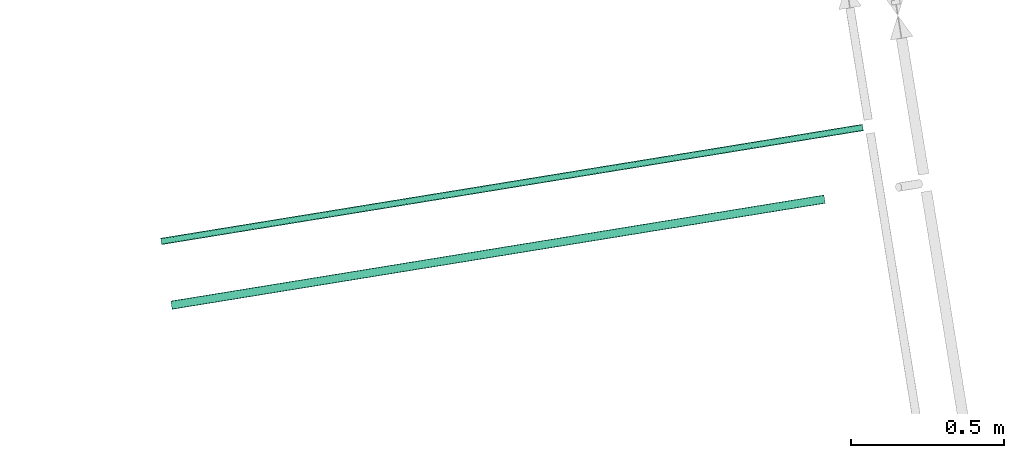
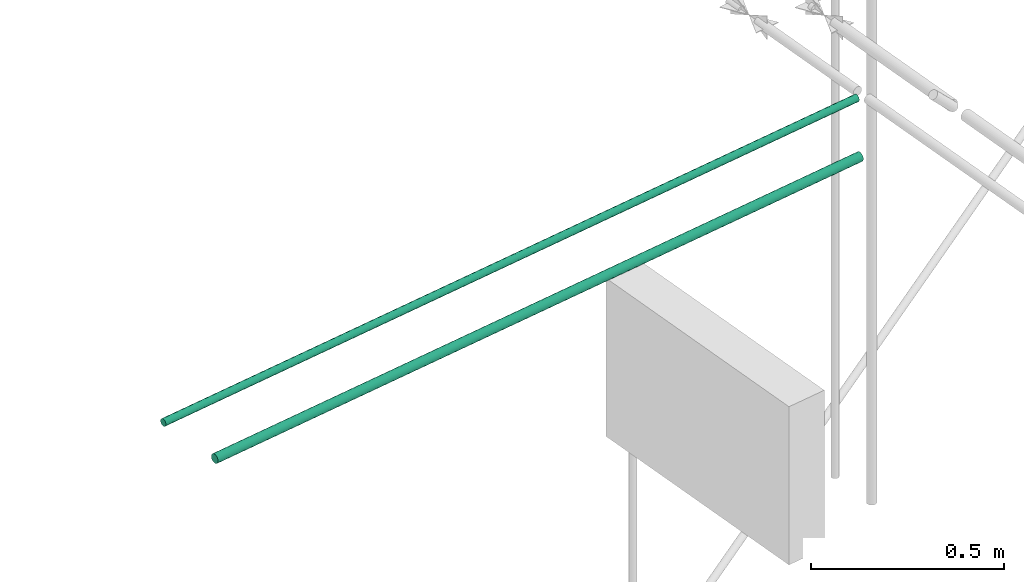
# One storey, part 10 of 11: 2 flow segments.
"""IFC2X3 building model written with IfcOpenShell, lengths in millimetres."""

import ifcopenshell
import ifcopenshell.guid

model = None  # the IFC model being written
_history = None  # IfcOwnerHistory: only IFC2X3 demands one
_inside = {}  # id of a spatial element -> (the spatial element, [elements in it])
_under = {}  # id of a project, library or spatial element -> (it, [spatial elements below it])
_declared = {}  # id of a project -> (the project, [libraries it declares])
_typed = {}  # id of a type object -> (the type object, [elements of that type])
_made_of = {}  # id of a material, layer set ... -> (it, [elements and type objects made of it])


def new_model(schema):
    """Start an empty IFC model of exactly this schema.

    Asked for "IFC4X3", IfcOpenShell would pick the latest addendum, in which some entities
    have other attributes; the version numbers below select the first issue.
    IFC2X3 requires an IfcOwnerHistory on every rooted entity: one is made here for all.
    """
    global model, _history
    if schema == "IFC4X3":
        model = ifcopenshell.file(schema_version=(4, 3, 0, 0))
    else:
        model = ifcopenshell.file(schema=schema)
    _inside.clear()
    _under.clear()
    _declared.clear()
    _typed.clear()
    _made_of.clear()
    _history = None
    if model.schema == "IFC2X3":
        org = make("IfcOrganization", Name="unknown")
        user = make(
            "IfcPersonAndOrganization",
            ThePerson=make("IfcPerson", FamilyName="unknown"),
            TheOrganization=org,
        )
        app = make(
            "IfcApplication",
            ApplicationDeveloper=org,
            Version="unknown",
            ApplicationFullName="unknown",
            ApplicationIdentifier="unknown",
        )
        _history = make(
            "IfcOwnerHistory",
            OwningUser=user,
            OwningApplication=app,
            ChangeAction="ADDED",
            CreationDate=0,
        )
    return model


def make(cls, **values):
    """One entity of the class cls with the attributes given. An attribute that is None is left unset."""
    return model.create_entity(
        cls, **{name: value for name, value in values.items() if value is not None}
    )


def entity(cls, *values):
    """Any entity or typed value of the class cls, its attributes in the order of the schema. None: left unset."""
    e = model.create_entity(cls)
    for i, value in enumerate(values):
        if value is not None:
            e[i] = value
    return e


def rooted(cls, **values):
    """An entity with a GlobalId (a new one), such as an element, a storey or a relation."""
    return make(cls, GlobalId=ifcopenshell.guid.new(), OwnerHistory=_history, **values)


def si_unit(unit_type, name, prefix=None):
    """IfcSIUnit, for example si_unit("LENGTHUNIT", "METRE", prefix="MILLI")."""
    return make("IfcSIUnit", UnitType=unit_type, Prefix=prefix, Name=name)


def converted_unit(unit_type, name, factor, base, dimensions=None, offset=None):
    """IfcConversionBasedUnit, such as the inch: factor (a typed value) times the base unit."""
    return make(
        "IfcConversionBasedUnit"
        if offset is None
        else "IfcConversionBasedUnitWithOffset",
        ConversionOffset=offset,
        Dimensions=None
        if dimensions is None
        else entity("IfcDimensionalExponents", *dimensions),
        UnitType=unit_type,
        Name=name,
        ConversionFactor=make(
            "IfcMeasureWithUnit", ValueComponent=factor, UnitComponent=base
        ),
    )


def derived_unit(unit_type, elements):
    """IfcDerivedUnit: a product of units, each with its exponent."""
    return make(
        "IfcDerivedUnit",
        Elements=[
            make("IfcDerivedUnitElement", Unit=unit, Exponent=power)
            for unit, power in elements
        ],
        UnitType=unit_type,
    )


def assignment(units):
    """IfcUnitAssignment: the units of a project."""
    return None if units is None else make("IfcUnitAssignment", Units=units)


def point(xyz):
    """IfcCartesianPoint."""
    return None if xyz is None else make("IfcCartesianPoint", Coordinates=xyz)


def direction(xyz):
    """IfcDirection."""
    return None if xyz is None else make("IfcDirection", DirectionRatios=xyz)


def frame(location, z_axis=None, x_axis=None):
    """IfcAxis2Placement3D, a coordinate frame: its origin and axes. An axis left out is left unset."""
    return make(
        "IfcAxis2Placement3D",
        Location=point(location),
        Axis=direction(z_axis),
        RefDirection=direction(x_axis),
    )


def origin():
    """The frame at (0, 0, 0) with its axes left unset."""
    return frame((0.0, 0.0, 0.0))


def origin_with_axes():
    """The frame at (0, 0, 0) with the z axis (0, 0, 1) and the x axis (1, 0, 0) written out."""
    return frame((0.0, 0.0, 0.0), z_axis=(0.0, 0.0, 1.0), x_axis=(1.0, 0.0, 0.0))


def place(relative_to, where):
    """IfcLocalPlacement: puts the frame where relative to a parent placement (None: the world)."""
    return make(
        "IfcLocalPlacement", PlacementRelTo=relative_to, RelativePlacement=where
    )


def context(
    kind, dimensions, precision=None, world=None, true_north=None, identifier=None
):
    """IfcGeometricRepresentationContext, for example the 3D "Model" context."""
    return make(
        "IfcGeometricRepresentationContext",
        ContextIdentifier=identifier,
        ContextType=kind,
        CoordinateSpaceDimension=dimensions,
        Precision=precision,
        WorldCoordinateSystem=world,
        TrueNorth=true_north,
    )


def subcontext(parent, identifier, kind, view, scale=None):
    """IfcGeometricRepresentationSubContext, for example "Body" below "Model"."""
    return make(
        "IfcGeometricRepresentationSubContext",
        ContextIdentifier=identifier,
        ContextType=kind,
        ParentContext=parent,
        TargetScale=scale,
        TargetView=view,
    )


def project(units=None, contexts=None):
    """IfcProject with its units and contexts."""
    return rooted(
        "IfcProject",
        Name="project",
        RepresentationContexts=contexts,
        UnitsInContext=assignment(units),
    )


def spatial(cls, under=None, at=None, **own):
    """A site, building, storey or space (cls), placed at a placement, below another one or the project."""
    s = rooted(cls, ObjectPlacement=at, **own)
    if under is not None:
        _under.setdefault(under.id(), (under, []))[1].append(s)
    return s


def faces_of(points, faces, orient=None, outer=None):
    """IfcFace entities. A face is a list of loops; a loop is a list of indices into points, from 0.

    orient and outer hold one flag for each loop. By default every Orientation is true, the
    first loop of a face is its IfcFaceOuterBound and the others are IfcFaceBound.
    """
    made = []
    for i, loops in enumerate(faces):
        bounds = []
        for j, loop in enumerate(loops):
            is_outer = j == 0 if outer is None else outer[i][j]
            bounds.append(
                make(
                    "IfcFaceOuterBound" if is_outer else "IfcFaceBound",
                    Bound=make("IfcPolyLoop", Polygon=[points[k] for k in loop]),
                    Orientation=True if orient is None else orient[i][j],
                )
            )
        made.append(make("IfcFace", Bounds=bounds))
    return made


def faceted_brep(points, faces, orient=None, outer=None, voids=None):
    """IfcFacetedBrep: a solid bounded by flat faces; with voids (closed shells), ...WithVoids."""
    shared = [point(p) for p in points]
    hull = make("IfcClosedShell", CfsFaces=faces_of(shared, faces, orient, outer))
    if voids is None:
        return make("IfcFacetedBrep", Outer=hull)
    return make(
        "IfcFacetedBrepWithVoids",
        Outer=hull,
        Voids=[
            make(cls, CfsFaces=faces_of(shared, fs, o, b)) for cls, fs, o, b in voids
        ],
    )


def shape(context_of_items, identifier, shape_type, items):
    """IfcShapeRepresentation: the items that make up one representation, for example the "Body"."""
    return make(
        "IfcShapeRepresentation",
        ContextOfItems=context_of_items,
        RepresentationIdentifier=identifier,
        RepresentationType=shape_type,
        Items=items,
    )


def made_of(thing, what):
    """Note that an element or type object is made of a material, layer set ...; save() writes the relation."""
    if what is not None:
        _made_of.setdefault(what.id(), (what, []))[1].append(thing)
    return thing


def type_object(cls, material=None, **own):
    """A type object (cls), such as IfcWallType, which elements share."""
    return made_of(rooted(cls, **own), material)


def element(
    cls,
    number,
    at=None,
    inside=None,
    cuts=None,
    type_object=None,
    material=None,
    context=None,
    identifier="Body",
    shape_type=None,
    held_by="IfcProductDefinitionShape",
    body=None,
    shapes=None,
    **own,
):
    """One element of the class cls, such as IfcWall. Its Tag is "e" and its number.

    at: its placement. inside: the storey or other place that contains it. cuts: it is an
    opening in that element (IfcRelVoidsElement). A single representation is given by context,
    identifier, shape_type and body (its items); several are given by shapes. held_by: the class
    of the entity that holds the representations. save() writes the other relations.
    """
    e = rooted(cls, Tag="e%d" % number, ObjectPlacement=at, **own)
    if body is not None:
        shapes = [shape(context, identifier, shape_type, body)]
    if shapes is not None:
        e.Representation = make(held_by, Representations=shapes)
    if inside is not None:
        _inside.setdefault(inside.id(), (inside, []))[1].append(e)
    if cuts is not None:
        rooted(
            "IfcRelVoidsElement", RelatingBuildingElement=cuts, RelatedOpeningElement=e
        )
    if type_object is not None:
        _typed.setdefault(type_object.id(), (type_object, []))[1].append(e)
    return made_of(e, material)


def aggregate(whole, parts):
    """IfcRelAggregates: a whole, such as a stair, and the parts it consists of."""
    return rooted("IfcRelAggregates", RelatingObject=whole, RelatedObjects=parts)


def save(model, path):
    """Write the relations noted so far, then the file.

    IfcRelAggregates (storeys below a building ...), IfcRelContainedInSpatialStructure (elements
    in a storey), IfcRelDefinesByType, IfcRelAssociatesMaterial and IfcRelDeclares: one each for
    every whole, place, type object, material and project.
    """
    for whole, parts in _under.values():
        aggregate(whole, parts)
    for where, things in _inside.values():
        rooted(
            "IfcRelContainedInSpatialStructure",
            RelatedElements=things,
            RelatingStructure=where,
        )
    for kind, things in _typed.values():
        rooted("IfcRelDefinesByType", RelatedObjects=things, RelatingType=kind)
    for what, things in _made_of.values():
        rooted("IfcRelAssociatesMaterial", RelatedObjects=things, RelatingMaterial=what)
    for by, libraries in _declared.values():
        rooted("IfcRelDeclares", RelatingContext=by, RelatedDefinitions=libraries)
    model.write(path)


model = new_model("IFC2X3")

# Units and contexts
plan_context = context("Plan", 3, precision=1e-05, world=origin_with_axes())
model_context = context("Model", 3, precision=0.01, world=origin(), true_north=direction((6.12323399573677e-17, 1.0)))
body_context = subcontext(model_context, "Body", "Model", "MODEL_VIEW")
ifc_project = project(units=[converted_unit("PLANEANGLEUNIT", "DEGREE", entity("IfcPositiveLengthMeasure", 0.0174532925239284), si_unit("PLANEANGLEUNIT", "RADIAN"), dimensions=[0, 0, 0, 0, 0, 0, 0]), si_unit("AREAUNIT", "SQUARE_METRE"), si_unit("LENGTHUNIT", "METRE", prefix="MILLI"), si_unit("MASSUNIT", "GRAM", prefix="KILO"), si_unit("POWERUNIT", "WATT"), si_unit("PRESSUREUNIT", "PASCAL", prefix="KILO"), si_unit("FORCEUNIT", "NEWTON", prefix="KILO"), si_unit("ELECTRICVOLTAGEUNIT", "VOLT"), si_unit("ELECTRICCURRENTUNIT", "AMPERE"), si_unit("THERMODYNAMICTEMPERATUREUNIT", "DEGREE_CELSIUS"), si_unit("TIMEUNIT", "SECOND"), si_unit("VOLUMEUNIT", "CUBIC_METRE"), derived_unit("LINEARVELOCITYUNIT", [(si_unit("LENGTHUNIT", "METRE"), 1), (si_unit("TIMEUNIT", "SECOND"), -1)]), derived_unit("VOLUMETRICFLOWRATEUNIT", [(si_unit("VOLUMEUNIT", "CUBIC_METRE"), 1), (si_unit("TIMEUNIT", "SECOND"), -1)]), derived_unit("THERMALTRANSMITTANCEUNIT", [(si_unit("POWERUNIT", "WATT"), 1), (si_unit("THERMODYNAMICTEMPERATUREUNIT", "KELVIN"), -1), (si_unit("AREAUNIT", "SQUARE_METRE"), -1)]), derived_unit("SOUNDPRESSUREUNIT", [(si_unit("PRESSUREUNIT", "PASCAL"), 1)])], contexts=[model_context, plan_context])

# Site, building, storey
site_placement = place(None, frame((-0.000710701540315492, 0.00438415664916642, 0.0), z_axis=(0.0, 0.0, 1.0), x_axis=(-0.160236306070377, 0.987078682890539, 0.0)))
site = spatial("IfcSite", under=ifc_project, at=site_placement, Name="Default", CompositionType="ELEMENT")
building_placement = place(site_placement, origin_with_axes())
building = spatial("IfcBuilding", under=site, at=building_placement, CompositionType="ELEMENT")
storey_placement = place(building_placement, frame((0.0, 0.0, 58999.9999999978), z_axis=(0.0, 0.0, 1.0), x_axis=(1.0, 0.0, 0.0)))
storey = spatial("IfcBuildingStorey", under=building, at=storey_placement, Name="Nivå F", CompositionType="ELEMENT", Elevation=58999.9999999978)

# Flow segments
pipe_segment_type = type_object("IfcPipeSegmentType", Name="Pipe Types:Kobberrør", PredefinedType="NOTDEFINED")
flow_segment_1_placement = place(storey_placement, origin_with_axes())
element("IfcFlowSegment", 1, at=flow_segment_1_placement, inside=storey, type_object=pipe_segment_type, Name="Pipe Types:Kobberrør", ObjectType="Pipe Types:Kobberrør", context=body_context, shape_type="Brep", body=[
    faceted_brep([(778344.832335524, -500902.480498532, 2677.56892551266), (778344.619644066, -500902.480498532, 2680.0), (778344.619644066, -503059.07489882, 2680.0), (778344.832335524, -503059.07489882, 2677.56892551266), (778344.832335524, -500902.480498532, 2682.43107448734), (778344.832335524, -503059.07489882, 2682.43107448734), (778345.463947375, -500902.480498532, 2684.78828200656), (778345.463947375, -503059.07489882, 2684.78828200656), (778346.495288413, -500902.480498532, 2687.0), (778346.495288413, -503059.07489882, 2687.0), (778347.895021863, -500902.480498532, 2688.99902653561), (778347.895021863, -503059.07489882, 2688.99902653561), (778349.620617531, -500902.480498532, 2690.72462220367), (778349.620617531, -503059.07489882, 2690.72462220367), (778351.619644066, -500902.480498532, 2692.12435565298), (778351.619644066, -503059.07489882, 2692.12435565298), (778353.83136206, -500902.480498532, 2693.155696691), (778353.83136206, -503059.07489882, 2693.155696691), (778356.188569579, -500902.480498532, 2693.78730854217), (778356.188569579, -503059.07489882, 2693.78730854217), (778358.619644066, -500902.480498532, 2694.0), (778358.619644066, -503059.07489882, 2694.0), (778361.050718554, -500902.480498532, 2693.78730854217), (778361.050718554, -503059.07489882, 2693.78730854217), (778363.407926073, -500902.480498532, 2693.155696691), (778363.407926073, -503059.07489882, 2693.155696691), (778365.619644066, -500902.480498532, 2692.12435565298), (778365.619644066, -503059.07489882, 2692.12435565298), (778367.618670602, -500902.480498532, 2690.72462220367), (778367.618670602, -503059.07489882, 2690.72462220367), (778369.34426627, -500902.480498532, 2688.99902653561), (778369.34426627, -503059.07489882, 2688.99902653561), (778370.743999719, -500902.480498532, 2687.0), (778370.743999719, -503059.07489882, 2687.0), (778371.775340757, -500902.480498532, 2684.78828200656), (778371.775340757, -503059.07489882, 2684.78828200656), (778372.406952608, -500902.480498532, 2682.43107448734), (778372.406952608, -503059.07489882, 2682.43107448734), (778372.619644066, -500902.480498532, 2680.0), (778372.619644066, -503059.07489882, 2680.0), (778372.406952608, -500902.480498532, 2677.56892551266), (778372.406952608, -503059.07489882, 2677.56892551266), (778371.775340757, -500902.480498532, 2675.21171799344), (778371.775340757, -503059.07489882, 2675.21171799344), (778370.743999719, -500902.480498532, 2673.0), (778370.743999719, -503059.07489882, 2673.0), (778369.34426627, -500902.480498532, 2671.00097346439), (778369.34426627, -503059.07489882, 2671.00097346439), (778367.618670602, -500902.480498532, 2669.27537779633), (778367.618670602, -503059.07489882, 2669.27537779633), (778365.619644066, -500902.480498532, 2667.87564434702), (778365.619644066, -503059.07489882, 2667.87564434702), (778363.407926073, -500902.480498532, 2666.844303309), (778363.407926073, -503059.07489882, 2666.844303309), (778361.050718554, -500902.480498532, 2666.21269145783), (778361.050718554, -503059.07489882, 2666.21269145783), (778358.619644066, -500902.480498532, 2666.0), (778358.619644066, -503059.07489882, 2666.0), (778356.188569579, -500902.480498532, 2666.21269145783), (778356.188569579, -503059.07489882, 2666.21269145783), (778353.83136206, -500902.480498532, 2666.844303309), (778353.83136206, -503059.07489882, 2666.844303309), (778351.619644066, -500902.480498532, 2667.87564434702), (778351.619644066, -503059.07489882, 2667.87564434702), (778349.620617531, -500902.480498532, 2669.27537779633), (778349.620617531, -503059.07489882, 2669.27537779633), (778347.895021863, -500902.480498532, 2671.00097346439), (778347.895021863, -503059.07489882, 2671.00097346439), (778346.495288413, -500902.480498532, 2673.0), (778346.495288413, -503059.07489882, 2673.0), (778345.463947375, -500902.480498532, 2675.21171799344), (778345.463947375, -503059.07489882, 2675.21171799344)], [[[0, 1, 2, 3]], [[1, 4, 5, 2]], [[4, 6, 7, 5]], [[6, 8, 9, 7]], [[8, 10, 11, 9]], [[10, 12, 13, 11]], [[12, 14, 15, 13]], [[14, 16, 17, 15]], [[16, 18, 19, 17]], [[18, 20, 21, 19]], [[20, 22, 23, 21]], [[22, 24, 25, 23]], [[24, 26, 27, 25]], [[26, 28, 29, 27]], [[28, 30, 31, 29]], [[30, 32, 33, 31]], [[32, 34, 35, 33]], [[34, 36, 37, 35]], [[36, 38, 39, 37]], [[38, 40, 41, 39]], [[40, 42, 43, 41]], [[42, 44, 45, 43]], [[44, 46, 47, 45]], [[46, 48, 49, 47]], [[48, 50, 51, 49]], [[50, 52, 53, 51]], [[52, 54, 55, 53]], [[54, 56, 57, 55]], [[56, 58, 59, 57]], [[58, 60, 61, 59]], [[60, 62, 63, 61]], [[62, 64, 65, 63]], [[64, 66, 67, 65]], [[66, 68, 69, 67]], [[68, 70, 71, 69]], [[70, 0, 3, 71]], [[3, 2, 5, 7, 9, 11, 13, 15, 17, 19, 21, 23, 25, 27, 29, 31, 33, 35, 37, 39, 41, 43, 45, 47, 49, 51, 53, 55, 57, 59, 61, 63, 65, 67, 69, 71]], [[70, 68, 66, 64, 62, 60, 58, 56, 54, 52, 50, 48, 46, 44, 42, 40, 38, 36, 34, 32, 30, 28, 26, 24, 22, 20, 18, 16, 14, 12, 10, 8, 6, 4, 1, 0]]], orient=[[False], [False], [False], [False], [False], [False], [False], [False], [False], [False], [False], [False], [False], [False], [False], [False], [False], [False], [False], [False], [False], [False], [False], [False], [False], [False], [False], [False], [False], [False], [False], [False], [False], [False], [False], [False], [False], [False]]),
])
flow_segment_2_placement = place(storey_placement, origin_with_axes())
element("IfcFlowSegment", 2, at=flow_segment_2_placement, inside=storey, type_object=pipe_segment_type, Name="Pipe Types:Kobberrør", ObjectType="Pipe Types:Kobberrør", context=body_context, shape_type="Brep", body=[
    faceted_brep([(778579.994364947, -500902.480498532, 2681.91012995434), (778580.161479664, -500902.480498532, 2680.0), (778580.161479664, -503219.672878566, 2680.0), (778579.994364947, -503219.672878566, 2681.91012995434), (778579.994364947, -500902.480498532, 2678.08987004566), (778579.994364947, -503219.672878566, 2678.08987004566), (778579.498098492, -500902.480498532, 2676.23777842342), (778579.498098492, -503219.672878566, 2676.23777842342), (778578.687759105, -500902.480498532, 2674.5), (778578.687759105, -503219.672878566, 2674.5), (778577.587968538, -500902.480498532, 2672.92933629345), (778577.587968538, -503219.672878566, 2672.92933629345), (778576.23214337, -500902.480498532, 2671.57351112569), (778576.23214337, -503219.672878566, 2671.57351112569), (778574.661479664, -500902.480498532, 2670.47372055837), (778574.661479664, -503219.672878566, 2670.47372055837), (778572.92370124, -500902.480498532, 2669.66338117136), (778572.92370124, -503219.672878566, 2669.66338117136), (778571.071609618, -500902.480498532, 2669.16711471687), (778571.071609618, -503219.672878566, 2669.16711471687), (778569.161479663, -500902.480498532, 2669.0), (778569.161479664, -503219.672878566, 2669.0), (778567.251349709, -500902.480498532, 2669.16711471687), (778567.251349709, -503219.672878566, 2669.16711471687), (778565.399258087, -500902.480498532, 2669.66338117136), (778565.399258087, -503219.672878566, 2669.66338117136), (778563.661479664, -500902.480498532, 2670.47372055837), (778563.661479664, -503219.672878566, 2670.47372055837), (778562.090815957, -500902.480498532, 2671.57351112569), (778562.090815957, -503219.672878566, 2671.57351112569), (778560.734990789, -500902.480498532, 2672.92933629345), (778560.734990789, -503219.672878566, 2672.92933629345), (778559.635200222, -500902.480498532, 2674.5), (778559.635200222, -503219.672878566, 2674.5), (778558.824860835, -500902.480498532, 2676.23777842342), (778558.824860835, -503219.672878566, 2676.23777842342), (778558.32859438, -500902.480498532, 2678.08987004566), (778558.32859438, -503219.672878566, 2678.08987004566), (778558.161479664, -500902.480498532, 2680.0), (778558.161479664, -503219.672878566, 2680.0), (778558.32859438, -500902.480498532, 2681.91012995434), (778558.32859438, -503219.672878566, 2681.91012995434), (778558.824860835, -500902.480498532, 2683.76222157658), (778558.824860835, -503219.672878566, 2683.76222157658), (778559.635200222, -500902.480498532, 2685.5), (778559.635200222, -503219.672878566, 2685.5), (778560.734990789, -500902.480498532, 2687.07066370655), (778560.734990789, -503219.672878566, 2687.07066370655), (778562.090815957, -500902.480498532, 2688.42648887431), (778562.090815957, -503219.672878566, 2688.42648887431), (778563.661479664, -500902.480498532, 2689.52627944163), (778563.661479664, -503219.672878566, 2689.52627944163), (778565.399258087, -500902.480498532, 2690.33661882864), (778565.399258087, -503219.672878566, 2690.33661882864), (778567.251349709, -500902.480498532, 2690.83288528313), (778567.251349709, -503219.672878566, 2690.83288528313), (778569.161479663, -500902.480498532, 2691.0), (778569.161479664, -503219.672878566, 2691.0), (778571.071609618, -500902.480498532, 2690.83288528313), (778571.071609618, -503219.672878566, 2690.83288528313), (778572.92370124, -500902.480498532, 2690.33661882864), (778572.92370124, -503219.672878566, 2690.33661882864), (778574.661479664, -500902.480498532, 2689.52627944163), (778574.661479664, -503219.672878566, 2689.52627944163), (778576.23214337, -500902.480498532, 2688.42648887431), (778576.23214337, -503219.672878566, 2688.42648887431), (778577.587968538, -500902.480498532, 2687.07066370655), (778577.587968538, -503219.672878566, 2687.07066370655), (778578.687759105, -500902.480498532, 2685.5), (778578.687759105, -503219.672878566, 2685.5), (778579.498098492, -500902.480498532, 2683.76222157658), (778579.498098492, -503219.672878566, 2683.76222157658)], [[[0, 1, 2, 3]], [[1, 4, 5, 2]], [[4, 6, 7, 5]], [[6, 8, 9, 7]], [[8, 10, 11, 9]], [[10, 12, 13, 11]], [[12, 14, 15, 13]], [[14, 16, 17, 15]], [[16, 18, 19, 17]], [[18, 20, 21, 19]], [[20, 22, 23, 21]], [[22, 24, 25, 23]], [[24, 26, 27, 25]], [[26, 28, 29, 27]], [[28, 30, 31, 29]], [[30, 32, 33, 31]], [[32, 34, 35, 33]], [[34, 36, 37, 35]], [[36, 38, 39, 37]], [[38, 40, 41, 39]], [[40, 42, 43, 41]], [[42, 44, 45, 43]], [[44, 46, 47, 45]], [[46, 48, 49, 47]], [[48, 50, 51, 49]], [[50, 52, 53, 51]], [[52, 54, 55, 53]], [[54, 56, 57, 55]], [[56, 58, 59, 57]], [[58, 60, 61, 59]], [[60, 62, 63, 61]], [[62, 64, 65, 63]], [[64, 66, 67, 65]], [[66, 68, 69, 67]], [[68, 70, 71, 69]], [[70, 0, 3, 71]], [[3, 2, 5, 7, 9, 11, 13, 15, 17, 19, 21, 23, 25, 27, 29, 31, 33, 35, 37, 39, 41, 43, 45, 47, 49, 51, 53, 55, 57, 59, 61, 63, 65, 67, 69, 71]], [[70, 68, 66, 64, 62, 60, 58, 56, 54, 52, 50, 48, 46, 44, 42, 40, 38, 36, 34, 32, 30, 28, 26, 24, 22, 20, 18, 16, 14, 12, 10, 8, 6, 4, 1, 0]]], orient=[[False], [False], [False], [False], [False], [False], [False], [False], [False], [False], [False], [False], [False], [False], [False], [False], [False], [False], [False], [False], [False], [False], [False], [False], [False], [False], [False], [False], [False], [False], [False], [False], [False], [False], [False], [False], [False], [False]]),
])

save(model, "model.ifc")
